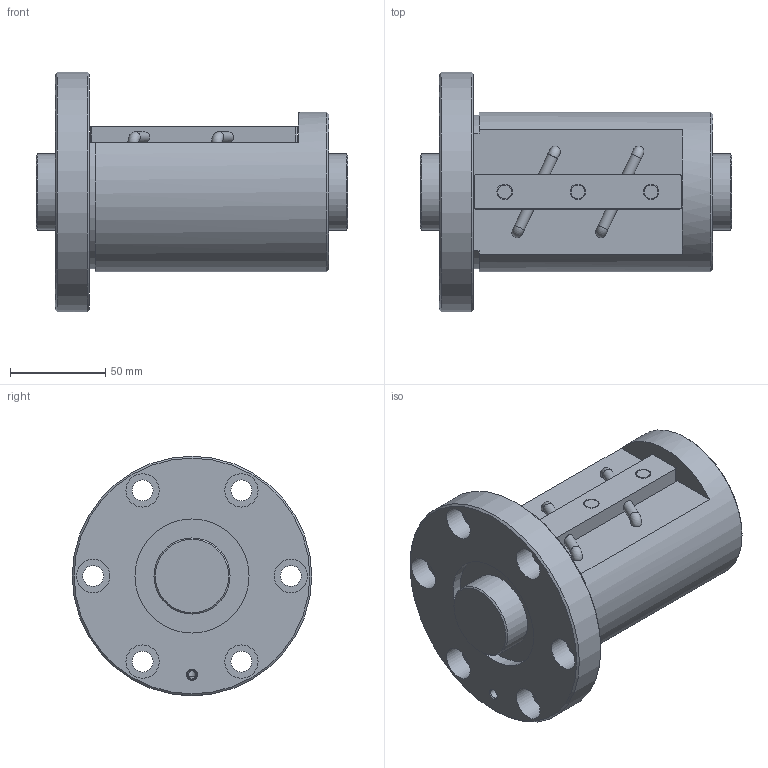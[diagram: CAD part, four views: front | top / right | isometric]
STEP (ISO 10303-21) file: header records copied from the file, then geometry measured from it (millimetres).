
FILE_DESCRIPTION(/* description */ ('STEP AP203'),/* implementation_level */ '2;1');
FILE_NAME(/* name */ 'BNF4016V-5RRG1+164LC0_000_rev',/* time_stamp */ '2024-08-06T08:41:25+02:00',/* author */ ('License CC BY-ND 4.0'),/* organization */ ('CADENAS'),/* preprocessor_version */ 'ST-DEVELOPER v19.3',/* originating_system */ 'PARTsolutions',/* authorisation */ ' ');
FILE_SCHEMA (('CONFIG_CONTROL_DESIGN'));
Length unit declared in the file: millimetre
Products named in the file (3): BNF4016V-5RRG1+164LC0_000_rev; BNF 4016-5RR000 Shaft; BNF 4016-5RR Nut
Assembly tree (2 placements, depth 2):
  BNF4016V-5RRG1+164LC0_000_rev
    BNF 4016-5RR000 Shaft
    BNF 4016-5RR Nut
Bounding box: 164 x 126 x 126 mm (x, y, z)
Volume: 845976.2 mm3; surface area: 113055.3 mm2
Topology: 2 solids, 2 shells, 77 faces, 168 edges, 110 vertices
Faces by surface type: cylinder 37, plane 29, cone 7, torus 4
Full cylindrical faces by diameter (mm): 4.5 x2, 4.917 x1, 5.598 x4, 7.2 x3, 8.2 x3, 11 x6, 17.5 x6, 40 x2, 60 x2, 84 x1, 126 x1
Entity records: 1943 total; most frequent: DIRECTION 348, CARTESIAN_POINT 324, ORIENTED_EDGE 220, AXIS2_PLACEMENT_3D 162, EDGE_LOOP 160, FACE_BOUND 160, EDGE_CURVE 110, VERTEX_POINT 96
